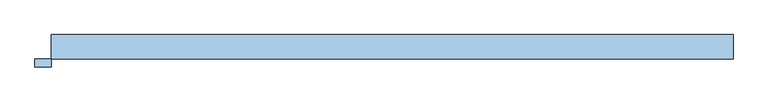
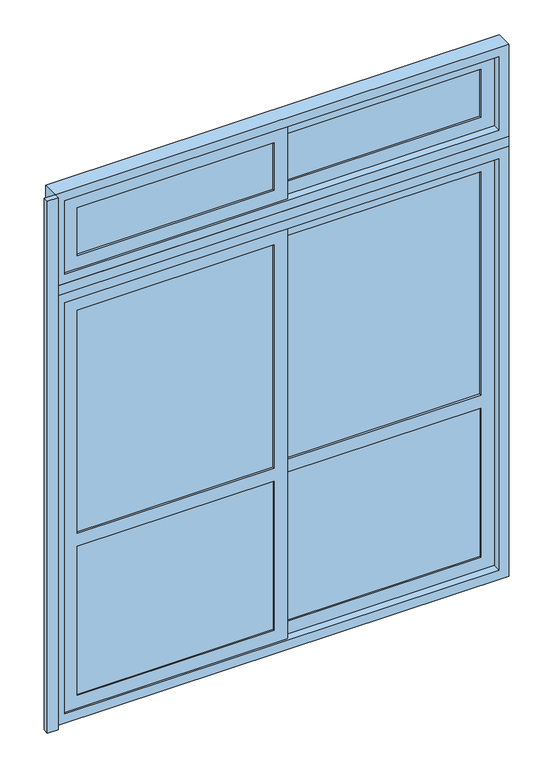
"""IFC4 building model written with IfcOpenShell, lengths in millimetres: window geometry, A7 Ventana_Corrediza_PC_2 hojas : A7.1 Ventana_Corrediza_PC_2 hojas 210x260."""

from ifc_helpers import new_model, si_unit, frame, origin, origin_with_axes, place, context, project, spatial, polyline, outline, extrude, source, transform, mapped, element, save


def window_07e8df99(model_context):
    return source(origin(), model_context, "Body", "SweptSolid", [
        extrude(outline(polyline([(-31.5, -84.5), (-942.0, -84.5), (-942.0, -68.5), (-31.5, -68.5), (-31.5, -84.5)])), frame((0.0, 0.0, 108.0), z_axis=(0.0, 0.0, 1.0), x_axis=(1.0, 0.0, 0.0)), (0.0, 0.0, 1.0), 728.0),
        extrude(outline(polyline([(942.0, -56.5), (31.5, -56.5), (31.5, -40.5), (942.0, -40.5), (942.0, -56.5)])), frame((0.0, 0.0, 108.0), z_axis=(0.0, 0.0, 1.0), x_axis=(1.0, 0.0, 0.0)), (0.0, 0.0, 1.0), 728.0),
        extrude(outline(polyline([(-31.5, -80.9230281), (-942.0, -80.9230281), (-942.0, -72.0769719), (-31.5, -72.0769719), (-31.5, -80.9230281)])), frame((0.0, 0.0, 2258.0), z_axis=(0.0, 0.0, 1.0), x_axis=(1.0, 0.0, 0.0)), (0.0, 0.0, 1.0), 234.0),
        extrude(outline(polyline([(-31.5, -80.9230281), (-942.0, -80.9230281), (-942.0, -72.0769719), (-31.5, -72.0769719), (-31.5, -80.9230281)])), frame((0.0, 0.0, 900.0), z_axis=(0.0, 0.0, 1.0), x_axis=(1.0, 0.0, 0.0)), (0.0, 0.0, 1.0), 1092.0),
        extrude(outline(polyline([(942.0, -52.9230281), (31.5, -52.9230281), (31.5, -44.0769719), (942.0, -44.0769719), (942.0, -52.9230281)])), frame((0.0, 0.0, 2258.0), z_axis=(0.0, 0.0, 1.0), x_axis=(1.0, 0.0, 0.0)), (0.0, 0.0, 1.0), 234.0),
        extrude(outline(polyline([(942.0, -52.9230281), (31.5, -52.9230281), (31.5, -44.0769719), (942.0, -44.0769719), (942.0, -52.9230281)])), frame((0.0, 0.0, 900.0), z_axis=(0.0, 0.0, 1.0), x_axis=(1.0, 0.0, 0.0)), (0.0, 0.0, 1.0), 1092.0),
        extrude(outline(polyline([(45.0, -1005.0), (45.0, 31.5), (2055.0, 31.5), (2055.0, -1005.0), (45.0, -1005.0)]), holes=[polyline([(900.0, -942.0), (1992.0, -942.0), (1992.0, -31.5), (900.0, -31.5), (900.0, -942.0)]), polyline([(108.0, -942.0), (836.0, -942.0), (836.0, -31.5), (108.0, -31.5), (108.0, -942.0)])]), frame((0.0, -90.5, 0.0), z_axis=(0.0, 1.0, 0.0), x_axis=(0.0, 0.0, 1.0)), (0.0, 0.0, 1.0), 28.0),
        extrude(outline(polyline([(2555.0, -1005.0), (2195.0, -1005.0), (2195.0, 31.5), (2555.0, 31.5), (2555.0, -1005.0)]), holes=[polyline([(2258.0, -942.0), (2492.0, -942.0), (2492.0, -31.5), (2258.0, -31.5), (2258.0, -942.0)])]), frame((0.0, -90.5, 0.0), z_axis=(0.0, 1.0, 0.0), x_axis=(0.0, 0.0, 1.0)), (0.0, 0.0, 1.0), 28.0),
        extrude(outline(polyline([(2055.0, 1005.0), (2055.0, -31.5), (45.0, -31.5), (45.0, 1005.0), (2055.0, 1005.0)]), holes=[polyline([(1992.0, 31.5), (1992.0, 942.0), (900.0, 942.0), (900.0, 31.5), (1992.0, 31.5)]), polyline([(836.0, 31.5), (836.0, 942.0), (108.0, 942.0), (108.0, 31.5), (836.0, 31.5)])]), frame((0.0, -62.5, 0.0), z_axis=(0.0, 1.0, 0.0), x_axis=(0.0, 0.0, 1.0)), (0.0, 0.0, 1.0), 28.0),
        extrude(outline(polyline([(2195.0, -31.5), (2195.0, 1005.0), (2555.0, 1005.0), (2555.0, -31.5), (2195.0, -31.5)]), holes=[polyline([(2492.0, 31.5), (2492.0, 942.0), (2258.0, 942.0), (2258.0, 31.5), (2492.0, 31.5)])]), frame((0.0, -62.5, 0.0), z_axis=(0.0, 1.0, 0.0), x_axis=(0.0, 0.0, 1.0)), (0.0, 0.0, 1.0), 28.0),
        extrude(outline(polyline([(2100.0, -1050.0), (0.0, -1050.0), (0.0, 1050.0), (2100.0, 1050.0), (2100.0, -1050.0)]), holes=[polyline([(2055.0, -1005.0), (2055.0, 1005.0), (45.0, 1005.0), (45.0, -1005.0), (2055.0, -1005.0)])]), frame((0.0, -100.0, 0.0), z_axis=(0.0, 1.0, 0.0), x_axis=(0.0, 0.0, 1.0)), (0.0, 0.0, 1.0), 75.0),
        extrude(outline(polyline([(2600.0, -1050.0), (2150.0, -1050.0), (2150.0, 1050.0), (2600.0, 1050.0), (2600.0, -1050.0)]), holes=[polyline([(2555.0, -1005.0), (2555.0, 1005.0), (2195.0, 1005.0), (2195.0, -1005.0), (2555.0, -1005.0)])]), frame((0.0, -100.0, 0.0), z_axis=(0.0, 1.0, 0.0), x_axis=(0.0, 0.0, 1.0)), (0.0, 0.0, 1.0), 75.0),
        extrude(outline(polyline([(1050.0, -100.0), (-1050.0, -100.0), (-1050.0, -25.0), (1050.0, -25.0), (1050.0, -100.0)])), frame((0.0, 0.0, 2100.0), z_axis=(0.0, 0.0, 1.0), x_axis=(1.0, 0.0, 0.0)), (0.0, 0.0, 1.0), 50.0),
        extrude(outline(polyline([(-1050.0, -125.0), (-1100.0, -125.0), (-1100.0, -100.0), (-1050.0, -100.0), (-1050.0, -125.0)])), origin_with_axes(), (0.0, 0.0, 1.0), 2600.0),
    ])


if __name__ == "__main__":
    model = new_model("IFC4")
    model_context = context("Model", 3, world=origin())
    ifc_project = project(units=[si_unit("LENGTHUNIT", "METRE", prefix="MILLI")], contexts=[model_context])
    site = spatial("IfcSite", under=ifc_project)
    building = spatial("IfcBuilding", under=site)
    placement = place(None, origin())
    window_shape = window_07e8df99(model_context)
    element("IfcWindow", 1, ObjectType="A7 Ventana_Corrediza_PC_2 hojas : A7.1 Ventana_Corrediza_PC_2 hojas 210x260", at=placement, inside=building, context=model_context, shape_type="MappedRepresentation", body=[
        mapped(window_shape, transform((0.0, 0.0, 0.0), x_axis=(1.0, 0.0, 0.0), y_axis=(0.0, 1.0, 0.0), z_axis=(0.0, 0.0, 1.0))),
    ])
    save(model, "model.ifc")
